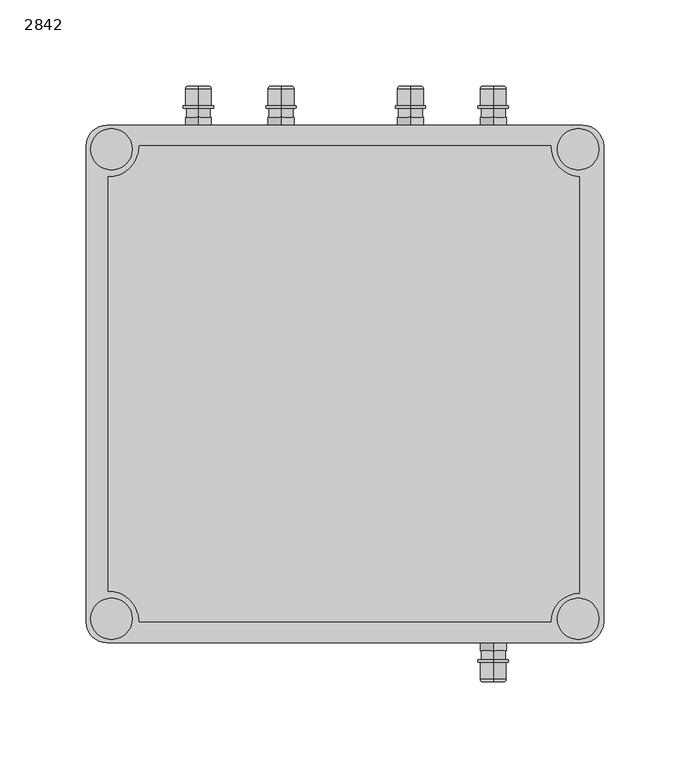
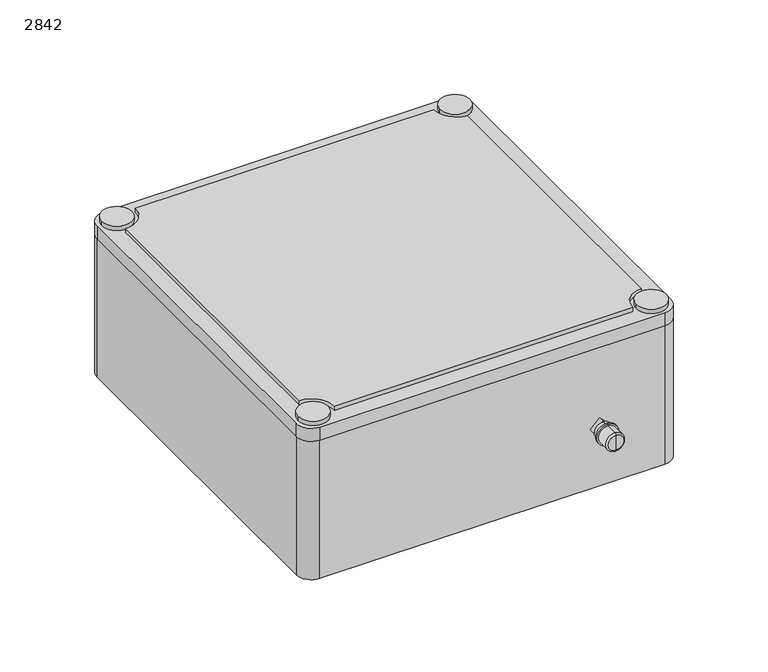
"""IFC4 building model written with IfcOpenShell, lengths in millimetres: alarm geometry, 2842_Intrinsically Safe Barrier Unit : 2842."""

from ifc_helpers import new_model, si_unit, point, frame, frame_2d, origin, origin_with_axes, place, context, project, spatial, polyline, circle_curve, ellipse_curve, trimmed, segment, composite_curve, outline, extrude, source, transform, mapped, element, save
from ifc_brep_helpers import plane_surface, cylinder_surface, revolved_surface, advanced_brep


def alarm_2842_b4f76887(model_context):
    return source(origin(), model_context, "Body", "SolidModel", [
        extrude(outline(polyline([(0.0, -10.6066017), (0.0, 0.0), (4.7, 0.0), (4.7, -10.6066017), (0.0, -10.6066017)])), frame((86.0, -150.0, 42.5), z_axis=(0.7071067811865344, 0.0, 0.7071067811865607), x_axis=(0.0, -1.0, 0.0)), (0.0, 0.0, 1.0), 10.6066017),
        advanced_brep(
        [(86.0, -154.7, 43.0436203), (86.0, -154.7, 56.9563797), (86.0, -154.7, 50.0), (86.0, -159.7, 50.0), (86.0, -159.7, 56.9563797), (86.0, -159.7, 43.0436203)],
        [
            (0, 1, circle_curve(frame((86.0, -154.7, 50.0), z_axis=(0.0, 1.0, 0.0), x_axis=(0.0, 0.0, 1.0)), 6.9563797)),
            (1, 2),
            (2, 0),
            (1, 0, circle_curve(frame((86.0, -154.7, 50.0), z_axis=(0.0, 1.0, 0.0), x_axis=(0.0, 0.0, 1.0)), 6.9563797)),
            (3, 4),
            (4, 5, circle_curve(frame((86.0, -159.7, 50.0), z_axis=(0.0, -1.0, 0.0), x_axis=(0.0, 0.0, 1.0)), 6.9563797)),
            (5, 3),
            (5, 4, circle_curve(frame((86.0, -159.7, 50.0), z_axis=(0.0, -1.0, 0.0), x_axis=(0.0, 0.0, 1.0)), 6.9563797)),
            (4, 1),
            (0, 5),
        ],
        [
            plane_surface(frame((86.0, -154.7, 50.0), z_axis=(0.0, 1.0, 0.0), x_axis=(0.0, 0.0, 1.0))),
            plane_surface(frame((86.0, -159.7, 50.0), z_axis=(0.0, -1.0, 0.0), x_axis=(0.0, 0.0, 1.0))),
            cylinder_surface(frame((86.0, 2554.9413433, 50.0), z_axis=(0.0, -1.0, 0.0), x_axis=(0.0, 0.0, 1.0)), 6.9563797),
        ],
        [
            (0, [[1, 2, 3]]),
            (0, [[4, -3, -2]]),
            (1, [[5, 6, 7]]),
            (1, [[-7, 8, -5]]),
            (2, [[-6, 9, -1, 10]]),
            (2, [[-8, -10, -4, -9]]),
        ],
    ),
        advanced_brep(
        [(86.0, -159.7, 41.2105626), (86.0, -159.7, 58.7894374), (86.0, -159.7, 50.0), (86.0, -172.5, 50.0), (86.0, -172.5, 56.1385432), (86.0, -172.5, 43.8614568), (86.0, -171.1521683, 57.4863749), (86.0, -171.1521683, 42.5136251), (86.0, -161.3299404, 57.4863749), (86.0, -161.3299404, 42.5136251), (86.0, -161.3299404, 58.7894374), (86.0, -161.3299404, 41.2105626)],
        [
            (0, 1, circle_curve(frame((86.0, -159.7, 50.0), z_axis=(0.0, 1.0, 0.0), x_axis=(0.0, 0.0, 1.0)), 8.7894374)),
            (1, 2),
            (2, 0),
            (1, 0, circle_curve(frame((86.0, -159.7, 50.0), z_axis=(0.0, 1.0, 0.0), x_axis=(0.0, 0.0, 1.0)), 8.7894374)),
            (3, 4),
            (4, 5, circle_curve(frame((86.0, -172.5, 50.0), z_axis=(0.0, -1.0, 0.0), x_axis=(0.0, 0.0, 1.0)), 6.1385432)),
            (5, 3),
            (5, 4, circle_curve(frame((86.0, -172.5, 50.0), z_axis=(0.0, -1.0, 0.0), x_axis=(0.0, 0.0, 1.0)), 6.1385432)),
            (4, 6, circle_curve(frame((86.0, -171.1521683, 56.1385432), z_axis=(-1.0, 0.0, 0.0), x_axis=(0.0, -1.0, 0.0)), 1.3478317)),
            (6, 7, circle_curve(frame((86.0, -171.1521683, 50.0), z_axis=(0.0, -1.0, 0.0), x_axis=(0.0, 0.0, 1.0)), 7.4863749)),
            (7, 5, circle_curve(frame((86.0, -171.1521683, 43.8614568), z_axis=(-1.0, 0.0, 0.0), x_axis=(0.0, -1.0, 0.0)), 1.3478317)),
            (7, 6, circle_curve(frame((86.0, -171.1521683, 50.0), z_axis=(0.0, -1.0, 0.0), x_axis=(0.0, 0.0, 1.0)), 7.4863749)),
            (6, 8),
            (8, 9, circle_curve(frame((86.0, -161.3299404, 50.0), z_axis=(0.0, -1.0, 0.0), x_axis=(0.0, 0.0, 1.0)), 7.4863749)),
            (9, 7),
            (9, 8, circle_curve(frame((86.0, -161.3299404, 50.0), z_axis=(0.0, -1.0, 0.0), x_axis=(0.0, 0.0, 1.0)), 7.4863749)),
            (8, 10),
            (10, 11, circle_curve(frame((86.0, -161.3299404, 50.0), z_axis=(0.0, -1.0, 0.0), x_axis=(0.0, 0.0, 1.0)), 8.7894374)),
            (11, 9),
            (11, 10, circle_curve(frame((86.0, -161.3299404, 50.0), z_axis=(0.0, -1.0, 0.0), x_axis=(0.0, 0.0, 1.0)), 8.7894374)),
            (10, 1),
            (0, 11),
        ],
        [
            plane_surface(frame((86.0, -159.7, 50.0), z_axis=(0.0, 1.0, 0.0), x_axis=(0.0, 0.0, 1.0))),
            plane_surface(frame((86.0, -172.5, 50.0), z_axis=(0.0, -1.0, 0.0), x_axis=(0.0, 0.0, 1.0))),
            revolved_surface(trimmed(ellipse_curve(frame((86.0, -171.1521683, 56.1385432), z_axis=(1.0, 0.0, 0.0), x_axis=(0.0, -1.0, 0.0)), 1.3478317, 1.3478317), [point((86.0, -171.1521683, 57.4863749))], [point((86.0, -172.5, 56.1385432))], True, "CARTESIAN"), (86.0, 2554.9413433, 50.0), (0.0, -1.0, 0.0)),
            cylinder_surface(frame((86.0, 2554.9413433, 50.0), z_axis=(0.0, -1.0, 0.0), x_axis=(0.0, 0.0, 1.0)), 7.4863749),
            plane_surface(frame((86.0, -161.3299404, 50.0), z_axis=(0.0, -1.0, 0.0), x_axis=(0.0, 0.0, 1.0))),
            cylinder_surface(frame((86.0, 2554.9413433, 50.0), z_axis=(0.0, -1.0, 0.0), x_axis=(0.0, 0.0, 1.0)), 8.7894374),
        ],
        [
            (0, [[1, 2, 3]]),
            (0, [[4, -3, -2]]),
            (1, [[5, 6, 7]]),
            (1, [[-7, 8, -5]]),
            (2, [[-6, 9, 10, 11]]),
            (2, [[-8, -11, 12, -9]]),
            (3, [[-10, 13, 14, 15]]),
            (3, [[-12, -15, 16, -13]]),
            (4, [[-14, 17, 18, 19]]),
            (4, [[-16, -19, 20, -17]]),
            (5, [[-18, 21, -1, 22]]),
            (5, [[-20, -22, -4, -21]]),
        ],
    ),
        extrude(outline(polyline([(0.0, -10.6066017), (0.0, 0.0), (4.7, 0.0), (4.7, -10.6066017), (0.0, -10.6066017)])), frame((78.5, 150.0, 50.0), z_axis=(0.7071067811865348, 0.0, 0.7071067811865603), x_axis=(0.0, 1.0, 0.0)), (0.0, 0.0, 1.0), 10.6066017),
        advanced_brep(
        [(86.0, 154.7, 50.0), (86.0, 154.7, 56.9563797), (86.0, 154.7, 43.0436203), (86.0, 159.7, 43.0436203), (86.0, 159.7, 56.9563797), (86.0, 159.7, 50.0)],
        [
            (0, 1),
            (1, 2, circle_curve(frame((86.0, 154.7, 50.0), z_axis=(0.0, -1.0, 0.0), x_axis=(0.0, 0.0, 1.0)), 6.9563797)),
            (2, 0),
            (2, 1, circle_curve(frame((86.0, 154.7, 50.0), z_axis=(0.0, -1.0, 0.0), x_axis=(0.0, 0.0, 1.0)), 6.9563797)),
            (3, 4, circle_curve(frame((86.0, 159.7, 50.0), z_axis=(0.0, 1.0, 0.0), x_axis=(0.0, 0.0, 1.0)), 6.9563797)),
            (4, 5),
            (5, 3),
            (4, 3, circle_curve(frame((86.0, 159.7, 50.0), z_axis=(0.0, 1.0, 0.0), x_axis=(0.0, 0.0, 1.0)), 6.9563797)),
            (1, 4),
            (3, 2),
        ],
        [
            plane_surface(frame((86.0, 154.7, 50.0), z_axis=(0.0, -1.0, 0.0), x_axis=(0.0, 0.0, 1.0))),
            plane_surface(frame((86.0, 159.7, 50.0), z_axis=(0.0, 1.0, 0.0), x_axis=(0.0, 0.0, 1.0))),
            cylinder_surface(frame((86.0, -2554.9413433, 50.0), z_axis=(0.0, -1.0, 0.0), x_axis=(0.0, 0.0, 1.0)), 6.9563797),
        ],
        [
            (0, [[1, 2, 3]]),
            (0, [[-3, 4, -1]]),
            (1, [[5, 6, 7]]),
            (1, [[8, -7, -6]]),
            (2, [[-2, 9, -5, 10]]),
            (2, [[-4, -10, -8, -9]]),
        ],
    ),
        advanced_brep(
        [(86.0, 159.7, 50.0), (86.0, 159.7, 58.7894374), (86.0, 159.7, 41.2105626), (86.0, 172.5, 43.8614568), (86.0, 172.5, 56.1385432), (86.0, 172.5, 50.0), (86.0, 171.1521683, 42.5136251), (86.0, 171.1521683, 57.4863749), (86.0, 161.3299404, 42.5136251), (86.0, 161.3299404, 57.4863749), (86.0, 161.3299404, 41.2105626), (86.0, 161.3299404, 58.7894374)],
        [
            (0, 1),
            (1, 2, circle_curve(frame((86.0, 159.7, 50.0), z_axis=(0.0, -1.0, 0.0), x_axis=(0.0, 0.0, 1.0)), 8.7894374)),
            (2, 0),
            (2, 1, circle_curve(frame((86.0, 159.7, 50.0), z_axis=(0.0, -1.0, 0.0), x_axis=(0.0, 0.0, 1.0)), 8.7894374)),
            (3, 4, circle_curve(frame((86.0, 172.5, 50.0), z_axis=(0.0, 1.0, 0.0), x_axis=(0.0, 0.0, 1.0)), 6.1385432)),
            (4, 5),
            (5, 3),
            (4, 3, circle_curve(frame((86.0, 172.5, 50.0), z_axis=(0.0, 1.0, 0.0), x_axis=(0.0, 0.0, 1.0)), 6.1385432)),
            (6, 7, circle_curve(frame((86.0, 171.1521683, 50.0), z_axis=(0.0, 1.0, 0.0), x_axis=(0.0, 0.0, 1.0)), 7.4863749)),
            (7, 4, circle_curve(frame((86.0, 171.1521683, 56.1385432), z_axis=(-1.0, 0.0, 0.0), x_axis=(0.0, 1.0, 0.0)), 1.3478317)),
            (3, 6, circle_curve(frame((86.0, 171.1521683, 43.8614568), z_axis=(-1.0, 0.0, 0.0), x_axis=(0.0, 1.0, 0.0)), 1.3478317)),
            (7, 6, circle_curve(frame((86.0, 171.1521683, 50.0), z_axis=(0.0, 1.0, 0.0), x_axis=(0.0, 0.0, 1.0)), 7.4863749)),
            (8, 9, circle_curve(frame((86.0, 161.3299404, 50.0), z_axis=(0.0, 1.0, 0.0), x_axis=(0.0, 0.0, 1.0)), 7.4863749)),
            (9, 7),
            (6, 8),
            (9, 8, circle_curve(frame((86.0, 161.3299404, 50.0), z_axis=(0.0, 1.0, 0.0), x_axis=(0.0, 0.0, 1.0)), 7.4863749)),
            (10, 11, circle_curve(frame((86.0, 161.3299404, 50.0), z_axis=(0.0, 1.0, 0.0), x_axis=(0.0, 0.0, 1.0)), 8.7894374)),
            (11, 9),
            (8, 10),
            (11, 10, circle_curve(frame((86.0, 161.3299404, 50.0), z_axis=(0.0, 1.0, 0.0), x_axis=(0.0, 0.0, 1.0)), 8.7894374)),
            (1, 11),
            (10, 2),
        ],
        [
            plane_surface(frame((86.0, 159.7, 50.0), z_axis=(0.0, -1.0, 0.0), x_axis=(0.0, 0.0, 1.0))),
            plane_surface(frame((86.0, 172.5, 50.0), z_axis=(0.0, 1.0, 0.0), x_axis=(0.0, 0.0, 1.0))),
            revolved_surface(trimmed(ellipse_curve(frame((86.0, 171.1521683, 56.1385432), z_axis=(1.0, 0.0, 0.0), x_axis=(0.0, 1.0, 0.0)), 1.3478317, 1.3478317), [point((86.0, 172.5, 56.1385432))], [point((86.0, 171.1521683, 57.4863749))], True, "CARTESIAN"), (86.0, -2554.9413433, 50.0), (0.0, -1.0, 0.0)),
            cylinder_surface(frame((86.0, -2554.9413433, 50.0), z_axis=(0.0, -1.0, 0.0), x_axis=(0.0, 0.0, 1.0)), 7.4863749),
            plane_surface(frame((86.0, 161.3299404, 50.0), z_axis=(0.0, 1.0, 0.0), x_axis=(0.0, 0.0, 1.0))),
            cylinder_surface(frame((86.0, -2554.9413433, 50.0), z_axis=(0.0, -1.0, 0.0), x_axis=(0.0, 0.0, 1.0)), 8.7894374),
        ],
        [
            (0, [[1, 2, 3]]),
            (0, [[-3, 4, -1]]),
            (1, [[5, 6, 7]]),
            (1, [[8, -7, -6]]),
            (2, [[9, 10, -5, 11]]),
            (2, [[12, -11, -8, -10]]),
            (3, [[13, 14, -9, 15]]),
            (3, [[16, -15, -12, -14]]),
            (4, [[17, 18, -13, 19]]),
            (4, [[20, -19, -16, -18]]),
            (5, [[-2, 21, -17, 22]]),
            (5, [[-4, -22, -20, -21]]),
        ],
    ),
        extrude(outline(polyline([(0.0, -10.6066017), (0.0, 0.0), (4.7, 0.0), (4.7, -10.6066017), (0.0, -10.6066017)])), frame((30.5, 150.0, 50.0), z_axis=(0.7071067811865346, 0.0, 0.7071067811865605), x_axis=(0.0, 1.0, 0.0)), (0.0, 0.0, 1.0), 10.6066017),
        advanced_brep(
        [(38.0, 154.7, 50.0), (38.0, 154.7, 56.9563797), (38.0, 154.7, 43.0436203), (38.0, 159.7, 43.0436203), (38.0, 159.7, 56.9563797), (38.0, 159.7, 50.0)],
        [
            (0, 1),
            (1, 2, circle_curve(frame((38.0, 154.7, 50.0), z_axis=(0.0, -1.0, 0.0), x_axis=(0.0, 0.0, 1.0)), 6.9563797)),
            (2, 0),
            (2, 1, circle_curve(frame((38.0, 154.7, 50.0), z_axis=(0.0, -1.0, 0.0), x_axis=(0.0, 0.0, 1.0)), 6.9563797)),
            (3, 4, circle_curve(frame((38.0, 159.7, 50.0), z_axis=(0.0, 1.0, 0.0), x_axis=(0.0, 0.0, 1.0)), 6.9563797)),
            (4, 5),
            (5, 3),
            (4, 3, circle_curve(frame((38.0, 159.7, 50.0), z_axis=(0.0, 1.0, 0.0), x_axis=(0.0, 0.0, 1.0)), 6.9563797)),
            (1, 4),
            (3, 2),
        ],
        [
            plane_surface(frame((38.0, 154.7, 50.0), z_axis=(0.0, -1.0, 0.0), x_axis=(0.0, 0.0, 1.0))),
            plane_surface(frame((38.0, 159.7, 50.0), z_axis=(0.0, 1.0, 0.0), x_axis=(0.0, 0.0, 1.0))),
            cylinder_surface(frame((38.0, -2554.9413433, 50.0), z_axis=(0.0, -1.0, 0.0), x_axis=(0.0, 0.0, 1.0)), 6.9563797),
        ],
        [
            (0, [[1, 2, 3]]),
            (0, [[-3, 4, -1]]),
            (1, [[5, 6, 7]]),
            (1, [[8, -7, -6]]),
            (2, [[-2, 9, -5, 10]]),
            (2, [[-4, -10, -8, -9]]),
        ],
    ),
        advanced_brep(
        [(38.0, 159.7, 50.0), (38.0, 159.7, 58.7894374), (38.0, 159.7, 41.2105626), (38.0, 172.5, 43.8614568), (38.0, 172.5, 56.1385432), (38.0, 172.5, 50.0), (38.0, 171.1521683, 42.5136251), (38.0, 171.1521683, 57.4863749), (38.0, 161.3299404, 42.5136251), (38.0, 161.3299404, 57.4863749), (38.0, 161.3299404, 41.2105626), (38.0, 161.3299404, 58.7894374)],
        [
            (0, 1),
            (1, 2, circle_curve(frame((38.0, 159.7, 50.0), z_axis=(0.0, -1.0, 0.0), x_axis=(0.0, 0.0, 1.0)), 8.7894374)),
            (2, 0),
            (2, 1, circle_curve(frame((38.0, 159.7, 50.0), z_axis=(0.0, -1.0, 0.0), x_axis=(0.0, 0.0, 1.0)), 8.7894374)),
            (3, 4, circle_curve(frame((38.0, 172.5, 50.0), z_axis=(0.0, 1.0, 0.0), x_axis=(0.0, 0.0, 1.0)), 6.1385432)),
            (4, 5),
            (5, 3),
            (4, 3, circle_curve(frame((38.0, 172.5, 50.0), z_axis=(0.0, 1.0, 0.0), x_axis=(0.0, 0.0, 1.0)), 6.1385432)),
            (6, 7, circle_curve(frame((38.0, 171.1521683, 50.0), z_axis=(0.0, 1.0, 0.0), x_axis=(0.0, 0.0, 1.0)), 7.4863749)),
            (7, 4, circle_curve(frame((38.0, 171.1521683, 56.1385432), z_axis=(-1.0, 0.0, 0.0), x_axis=(0.0, 1.0, 0.0)), 1.3478317)),
            (3, 6, circle_curve(frame((38.0, 171.1521683, 43.8614568), z_axis=(-1.0, 0.0, 0.0), x_axis=(0.0, 1.0, 0.0)), 1.3478317)),
            (7, 6, circle_curve(frame((38.0, 171.1521683, 50.0), z_axis=(0.0, 1.0, 0.0), x_axis=(0.0, 0.0, 1.0)), 7.4863749)),
            (8, 9, circle_curve(frame((38.0, 161.3299404, 50.0), z_axis=(0.0, 1.0, 0.0), x_axis=(0.0, 0.0, 1.0)), 7.4863749)),
            (9, 7),
            (6, 8),
            (9, 8, circle_curve(frame((38.0, 161.3299404, 50.0), z_axis=(0.0, 1.0, 0.0), x_axis=(0.0, 0.0, 1.0)), 7.4863749)),
            (10, 11, circle_curve(frame((38.0, 161.3299404, 50.0), z_axis=(0.0, 1.0, 0.0), x_axis=(0.0, 0.0, 1.0)), 8.7894374)),
            (11, 9),
            (8, 10),
            (11, 10, circle_curve(frame((38.0, 161.3299404, 50.0), z_axis=(0.0, 1.0, 0.0), x_axis=(0.0, 0.0, 1.0)), 8.7894374)),
            (1, 11),
            (10, 2),
        ],
        [
            plane_surface(frame((38.0, 159.7, 50.0), z_axis=(0.0, -1.0, 0.0), x_axis=(0.0, 0.0, 1.0))),
            plane_surface(frame((38.0, 172.5, 50.0), z_axis=(0.0, 1.0, 0.0), x_axis=(0.0, 0.0, 1.0))),
            revolved_surface(trimmed(ellipse_curve(frame((38.0, 171.1521683, 56.1385432), z_axis=(1.0, 0.0, 0.0), x_axis=(0.0, 1.0, 0.0)), 1.3478317, 1.3478317), [point((38.0, 172.5, 56.1385432))], [point((38.0, 171.1521683, 57.4863749))], True, "CARTESIAN"), (38.0, -2554.9413433, 50.0), (0.0, -1.0, 0.0)),
            cylinder_surface(frame((38.0, -2554.9413433, 50.0), z_axis=(0.0, -1.0, 0.0), x_axis=(0.0, 0.0, 1.0)), 7.4863749),
            plane_surface(frame((38.0, 161.3299404, 50.0), z_axis=(0.0, 1.0, 0.0), x_axis=(0.0, 0.0, 1.0))),
            cylinder_surface(frame((38.0, -2554.9413433, 50.0), z_axis=(0.0, -1.0, 0.0), x_axis=(0.0, 0.0, 1.0)), 8.7894374),
        ],
        [
            (0, [[1, 2, 3]]),
            (0, [[-3, 4, -1]]),
            (1, [[5, 6, 7]]),
            (1, [[8, -7, -6]]),
            (2, [[9, 10, -5, 11]]),
            (2, [[12, -11, -8, -10]]),
            (3, [[13, 14, -9, 15]]),
            (3, [[16, -15, -12, -14]]),
            (4, [[17, 18, -13, 19]]),
            (4, [[20, -19, -16, -18]]),
            (5, [[-2, 21, -17, 22]]),
            (5, [[-4, -22, -20, -21]]),
        ],
    ),
        extrude(outline(polyline([(0.0, -10.6066017), (0.0, 0.0), (4.7, 0.0), (4.7, -10.6066017), (0.0, -10.6066017)])), frame((-44.5, 150.0, 50.0), z_axis=(0.7071067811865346, 0.0, 0.7071067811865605), x_axis=(0.0, 1.0, 0.0)), (0.0, 0.0, 1.0), 10.6066017),
        advanced_brep(
        [(-37.0, 154.7, 50.0), (-37.0, 154.7, 56.9563797), (-37.0, 154.7, 43.0436203), (-37.0, 159.7, 43.0436203), (-37.0, 159.7, 56.9563797), (-37.0, 159.7, 50.0)],
        [
            (0, 1),
            (1, 2, circle_curve(frame((-37.0, 154.7, 50.0), z_axis=(0.0, -1.0, 0.0), x_axis=(0.0, 0.0, 1.0)), 6.9563797)),
            (2, 0),
            (2, 1, circle_curve(frame((-37.0, 154.7, 50.0), z_axis=(0.0, -1.0, 0.0), x_axis=(0.0, 0.0, 1.0)), 6.9563797)),
            (3, 4, circle_curve(frame((-37.0, 159.7, 50.0), z_axis=(0.0, 1.0, 0.0), x_axis=(0.0, 0.0, 1.0)), 6.9563797)),
            (4, 5),
            (5, 3),
            (4, 3, circle_curve(frame((-37.0, 159.7, 50.0), z_axis=(0.0, 1.0, 0.0), x_axis=(0.0, 0.0, 1.0)), 6.9563797)),
            (1, 4),
            (3, 2),
        ],
        [
            plane_surface(frame((-37.0, 154.7, 50.0), z_axis=(0.0, -1.0, 0.0), x_axis=(0.0, 0.0, 1.0))),
            plane_surface(frame((-37.0, 159.7, 50.0), z_axis=(0.0, 1.0, 0.0), x_axis=(0.0, 0.0, 1.0))),
            cylinder_surface(frame((-37.0, -2554.9413433, 50.0), z_axis=(0.0, -1.0, 0.0), x_axis=(0.0, 0.0, 1.0)), 6.9563797),
        ],
        [
            (0, [[1, 2, 3]]),
            (0, [[-3, 4, -1]]),
            (1, [[5, 6, 7]]),
            (1, [[8, -7, -6]]),
            (2, [[-2, 9, -5, 10]]),
            (2, [[-4, -10, -8, -9]]),
        ],
    ),
        advanced_brep(
        [(-37.0, 159.7, 50.0), (-37.0, 159.7, 58.7894374), (-37.0, 159.7, 41.2105626), (-37.0, 172.5, 43.8614568), (-37.0, 172.5, 56.1385432), (-37.0, 172.5, 50.0), (-37.0, 171.1521683, 42.5136251), (-37.0, 171.1521683, 57.4863749), (-37.0, 161.3299404, 42.5136251), (-37.0, 161.3299404, 57.4863749), (-37.0, 161.3299404, 41.2105626), (-37.0, 161.3299404, 58.7894374)],
        [
            (0, 1),
            (1, 2, circle_curve(frame((-37.0, 159.7, 50.0), z_axis=(0.0, -1.0, 0.0), x_axis=(0.0, 0.0, 1.0)), 8.7894374)),
            (2, 0),
            (2, 1, circle_curve(frame((-37.0, 159.7, 50.0), z_axis=(0.0, -1.0, 0.0), x_axis=(0.0, 0.0, 1.0)), 8.7894374)),
            (3, 4, circle_curve(frame((-37.0, 172.5, 50.0), z_axis=(0.0, 1.0, 0.0), x_axis=(0.0, 0.0, 1.0)), 6.1385432)),
            (4, 5),
            (5, 3),
            (4, 3, circle_curve(frame((-37.0, 172.5, 50.0), z_axis=(0.0, 1.0, 0.0), x_axis=(0.0, 0.0, 1.0)), 6.1385432)),
            (6, 7, circle_curve(frame((-37.0, 171.1521683, 50.0), z_axis=(0.0, 1.0, 0.0), x_axis=(0.0, 0.0, 1.0)), 7.4863749)),
            (7, 4, circle_curve(frame((-37.0, 171.1521683, 56.1385432), z_axis=(-1.0, 0.0, 0.0), x_axis=(0.0, 1.0, 0.0)), 1.3478317)),
            (3, 6, circle_curve(frame((-37.0, 171.1521683, 43.8614568), z_axis=(-1.0, 0.0, 0.0), x_axis=(0.0, 1.0, 0.0)), 1.3478317)),
            (7, 6, circle_curve(frame((-37.0, 171.1521683, 50.0), z_axis=(0.0, 1.0, 0.0), x_axis=(0.0, 0.0, 1.0)), 7.4863749)),
            (8, 9, circle_curve(frame((-37.0, 161.3299404, 50.0), z_axis=(0.0, 1.0, 0.0), x_axis=(0.0, 0.0, 1.0)), 7.4863749)),
            (9, 7),
            (6, 8),
            (9, 8, circle_curve(frame((-37.0, 161.3299404, 50.0), z_axis=(0.0, 1.0, 0.0), x_axis=(0.0, 0.0, 1.0)), 7.4863749)),
            (10, 11, circle_curve(frame((-37.0, 161.3299404, 50.0), z_axis=(0.0, 1.0, 0.0), x_axis=(0.0, 0.0, 1.0)), 8.7894374)),
            (11, 9),
            (8, 10),
            (11, 10, circle_curve(frame((-37.0, 161.3299404, 50.0), z_axis=(0.0, 1.0, 0.0), x_axis=(0.0, 0.0, 1.0)), 8.7894374)),
            (1, 11),
            (10, 2),
        ],
        [
            plane_surface(frame((-37.0, 159.7, 50.0), z_axis=(0.0, -1.0, 0.0), x_axis=(0.0, 0.0, 1.0))),
            plane_surface(frame((-37.0, 172.5, 50.0), z_axis=(0.0, 1.0, 0.0), x_axis=(0.0, 0.0, 1.0))),
            revolved_surface(trimmed(ellipse_curve(frame((-37.0, 171.1521683, 56.1385432), z_axis=(1.0, 0.0, 0.0), x_axis=(0.0, 1.0, 0.0)), 1.3478317, 1.3478317), [point((-37.0, 172.5, 56.1385432))], [point((-37.0, 171.1521683, 57.4863749))], True, "CARTESIAN"), (-37.0, -2554.9413433, 50.0), (0.0, -1.0, 0.0)),
            cylinder_surface(frame((-37.0, -2554.9413433, 50.0), z_axis=(0.0, -1.0, 0.0), x_axis=(0.0, 0.0, 1.0)), 7.4863749),
            plane_surface(frame((-37.0, 161.3299404, 50.0), z_axis=(0.0, 1.0, 0.0), x_axis=(0.0, 0.0, 1.0))),
            cylinder_surface(frame((-37.0, -2554.9413433, 50.0), z_axis=(0.0, -1.0, 0.0), x_axis=(0.0, 0.0, 1.0)), 8.7894374),
        ],
        [
            (0, [[1, 2, 3]]),
            (0, [[-3, 4, -1]]),
            (1, [[5, 6, 7]]),
            (1, [[8, -7, -6]]),
            (2, [[9, 10, -5, 11]]),
            (2, [[12, -11, -8, -10]]),
            (3, [[13, 14, -9, 15]]),
            (3, [[16, -15, -12, -14]]),
            (4, [[17, 18, -13, 19]]),
            (4, [[20, -19, -16, -18]]),
            (5, [[-2, 21, -17, 22]]),
            (5, [[-4, -22, -20, -21]]),
        ],
    ),
        extrude(outline(polyline([(0.0, -10.6066017), (0.0, 0.0), (4.7, 0.0), (4.7, -10.6066017), (0.0, -10.6066017)])), frame((-92.5, 150.0, 50.0), z_axis=(0.7071067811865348, 0.0, 0.7071067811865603), x_axis=(0.0, 1.0, 0.0)), (0.0, 0.0, 1.0), 10.6066017),
        advanced_brep(
        [(-85.0, 154.7, 50.0), (-85.0, 154.7, 56.9563797), (-85.0, 154.7, 43.0436203), (-85.0, 159.7, 43.0436203), (-85.0, 159.7, 56.9563797), (-85.0, 159.7, 50.0)],
        [
            (0, 1),
            (1, 2, circle_curve(frame((-85.0, 154.7, 50.0), z_axis=(0.0, -1.0, 0.0), x_axis=(0.0, 0.0, 1.0)), 6.9563797)),
            (2, 0),
            (2, 1, circle_curve(frame((-85.0, 154.7, 50.0), z_axis=(0.0, -1.0, 0.0), x_axis=(0.0, 0.0, 1.0)), 6.9563797)),
            (3, 4, circle_curve(frame((-85.0, 159.7, 50.0), z_axis=(0.0, 1.0, 0.0), x_axis=(0.0, 0.0, 1.0)), 6.9563797)),
            (4, 5),
            (5, 3),
            (4, 3, circle_curve(frame((-85.0, 159.7, 50.0), z_axis=(0.0, 1.0, 0.0), x_axis=(0.0, 0.0, 1.0)), 6.9563797)),
            (1, 4),
            (3, 2),
        ],
        [
            plane_surface(frame((-85.0, 154.7, 50.0), z_axis=(0.0, -1.0, 0.0), x_axis=(0.0, 0.0, 1.0))),
            plane_surface(frame((-85.0, 159.7, 50.0), z_axis=(0.0, 1.0, 0.0), x_axis=(0.0, 0.0, 1.0))),
            cylinder_surface(frame((-85.0, -2554.9413433, 50.0), z_axis=(0.0, -1.0, 0.0), x_axis=(0.0, 0.0, 1.0)), 6.9563797),
        ],
        [
            (0, [[1, 2, 3]]),
            (0, [[-3, 4, -1]]),
            (1, [[5, 6, 7]]),
            (1, [[8, -7, -6]]),
            (2, [[-2, 9, -5, 10]]),
            (2, [[-4, -10, -8, -9]]),
        ],
    ),
        advanced_brep(
        [(-85.0, 159.7, 50.0), (-85.0, 159.7, 58.7894374), (-85.0, 159.7, 41.2105626), (-85.0, 172.5, 43.8614568), (-85.0, 172.5, 56.1385432), (-85.0, 172.5, 50.0), (-85.0, 171.1521683, 42.5136251), (-85.0, 171.1521683, 57.4863749), (-85.0, 161.3299404, 42.5136251), (-85.0, 161.3299404, 57.4863749), (-85.0, 161.3299404, 41.2105626), (-85.0, 161.3299404, 58.7894374)],
        [
            (0, 1),
            (1, 2, circle_curve(frame((-85.0, 159.7, 50.0), z_axis=(0.0, -1.0, 0.0), x_axis=(0.0, 0.0, 1.0)), 8.7894374)),
            (2, 0),
            (2, 1, circle_curve(frame((-85.0, 159.7, 50.0), z_axis=(0.0, -1.0, 0.0), x_axis=(0.0, 0.0, 1.0)), 8.7894374)),
            (3, 4, circle_curve(frame((-85.0, 172.5, 50.0), z_axis=(0.0, 1.0, 0.0), x_axis=(0.0, 0.0, 1.0)), 6.1385432)),
            (4, 5),
            (5, 3),
            (4, 3, circle_curve(frame((-85.0, 172.5, 50.0), z_axis=(0.0, 1.0, 0.0), x_axis=(0.0, 0.0, 1.0)), 6.1385432)),
            (6, 7, circle_curve(frame((-85.0, 171.1521683, 50.0), z_axis=(0.0, 1.0, 0.0), x_axis=(0.0, 0.0, 1.0)), 7.4863749)),
            (7, 4, circle_curve(frame((-85.0, 171.1521683, 56.1385432), z_axis=(-1.0, 0.0, 0.0), x_axis=(0.0, 1.0, 0.0)), 1.3478317)),
            (3, 6, circle_curve(frame((-85.0, 171.1521683, 43.8614568), z_axis=(-1.0, 0.0, 0.0), x_axis=(0.0, 1.0, 0.0)), 1.3478317)),
            (7, 6, circle_curve(frame((-85.0, 171.1521683, 50.0), z_axis=(0.0, 1.0, 0.0), x_axis=(0.0, 0.0, 1.0)), 7.4863749)),
            (8, 9, circle_curve(frame((-85.0, 161.3299404, 50.0), z_axis=(0.0, 1.0, 0.0), x_axis=(0.0, 0.0, 1.0)), 7.4863749)),
            (9, 7),
            (6, 8),
            (9, 8, circle_curve(frame((-85.0, 161.3299404, 50.0), z_axis=(0.0, 1.0, 0.0), x_axis=(0.0, 0.0, 1.0)), 7.4863749)),
            (10, 11, circle_curve(frame((-85.0, 161.3299404, 50.0), z_axis=(0.0, 1.0, 0.0), x_axis=(0.0, 0.0, 1.0)), 8.7894374)),
            (11, 9),
            (8, 10),
            (11, 10, circle_curve(frame((-85.0, 161.3299404, 50.0), z_axis=(0.0, 1.0, 0.0), x_axis=(0.0, 0.0, 1.0)), 8.7894374)),
            (1, 11),
            (10, 2),
        ],
        [
            plane_surface(frame((-85.0, 159.7, 50.0), z_axis=(0.0, -1.0, 0.0), x_axis=(0.0, 0.0, 1.0))),
            plane_surface(frame((-85.0, 172.5, 50.0), z_axis=(0.0, 1.0, 0.0), x_axis=(0.0, 0.0, 1.0))),
            revolved_surface(trimmed(ellipse_curve(frame((-85.0, 171.1521683, 56.1385432), z_axis=(1.0, 0.0, 0.0), x_axis=(0.0, 1.0, 0.0)), 1.3478317, 1.3478317), [point((-85.0, 172.5, 56.1385432))], [point((-85.0, 171.1521683, 57.4863749))], True, "CARTESIAN"), (-85.0, -2554.9413433, 50.0), (0.0, -1.0, 0.0)),
            cylinder_surface(frame((-85.0, -2554.9413433, 50.0), z_axis=(0.0, -1.0, 0.0), x_axis=(0.0, 0.0, 1.0)), 7.4863749),
            plane_surface(frame((-85.0, 161.3299404, 50.0), z_axis=(0.0, 1.0, 0.0), x_axis=(0.0, 0.0, 1.0))),
            cylinder_surface(frame((-85.0, -2554.9413433, 50.0), z_axis=(0.0, -1.0, 0.0), x_axis=(0.0, 0.0, 1.0)), 8.7894374),
        ],
        [
            (0, [[1, 2, 3]]),
            (0, [[-3, 4, -1]]),
            (1, [[5, 6, 7]]),
            (1, [[8, -7, -6]]),
            (2, [[9, 10, -5, 11]]),
            (2, [[12, -11, -8, -10]]),
            (3, [[13, 14, -9, 15]]),
            (3, [[16, -15, -12, -14]]),
            (4, [[17, 18, -13, 19]]),
            (4, [[20, -19, -16, -18]]),
            (5, [[-2, 21, -17, 22]]),
            (5, [[-4, -22, -20, -21]]),
        ],
    ),
        extrude(outline(composite_curve([segment(polyline([(-150.0, -137.9), (-150.0, 137.9)]), True, "CONTINUOUS"), segment(trimmed(circle_curve(frame_2d((-137.9, 137.9)), 12.1), [point((-150.0, 137.9))], [point((-137.9, 150.0))], False, "CARTESIAN"), True, "CONTINUOUS"), segment(polyline([(-137.9, 150.0), (137.9, 150.0)]), True, "CONTINUOUS"), segment(trimmed(circle_curve(frame_2d((137.9, 137.9)), 12.1), [point((137.9, 150.0))], [point((150.0, 137.9))], False, "CARTESIAN"), True, "CONTINUOUS"), segment(polyline([(150.0, 137.9), (150.0, -137.9)]), True, "CONTINUOUS"), segment(trimmed(circle_curve(frame_2d((137.9, -137.9)), 12.1), [point((150.0, -137.9))], [point((137.9, -150.0))], False, "CARTESIAN"), True, "CONTINUOUS"), segment(polyline([(137.9, -150.0), (-137.9, -150.0)]), True, "CONTINUOUS"), segment(trimmed(circle_curve(frame_2d((-137.9, -137.9)), 12.1), [point((-137.9, -150.0))], [point((-150.0, -137.9))], False, "CARTESIAN"), True, "CONTINUOUS")], self_intersect=False)), frame((0.0, 0.0, 117.0), z_axis=(0.0, 0.0, 1.0), x_axis=(1.0, 0.0, 0.0)), (0.0, 0.0, 1.0), 11.0),
        extrude(outline(composite_curve([segment(trimmed(circle_curve(frame_2d((-135.3321179, 136.0181156)), 12.0), [point((-147.3321179, 136.0181156))], [point((-123.3321179, 136.0181156))], False, "CARTESIAN"), True, "CONTINUOUS"), segment(trimmed(circle_curve(frame_2d((-135.3321179, 136.0181156)), 12.0), [point((-123.3321179, 136.0181156))], [point((-147.3321179, 136.0181156))], False, "CARTESIAN"), True, "CONTINUOUS")], self_intersect=False)), frame((0.0, 0.0, 128.0), z_axis=(0.0, 0.0, 1.0), x_axis=(1.0, 0.0, 0.0)), (0.0, 0.0, 1.0), 4.0),
        extrude(outline(composite_curve([segment(trimmed(circle_curve(frame_2d((135.3321179, 136.0181156)), 12.0), [point((123.3321179, 136.0181156))], [point((147.3321179, 136.0181156))], False, "CARTESIAN"), True, "CONTINUOUS"), segment(trimmed(circle_curve(frame_2d((135.3321179, 136.0181156)), 12.0), [point((147.3321179, 136.0181156))], [point((123.3321179, 136.0181156))], False, "CARTESIAN"), True, "CONTINUOUS")], self_intersect=False)), frame((0.0, 0.0, 128.0), z_axis=(0.0, 0.0, 1.0), x_axis=(1.0, 0.0, 0.0)), (0.0, 0.0, 1.0), 4.0),
        extrude(outline(composite_curve([segment(trimmed(circle_curve(frame_2d((-135.3321179, -136.0181156)), 12.0), [point((-147.3321179, -136.0181156))], [point((-123.3321179, -136.0181156))], False, "CARTESIAN"), True, "CONTINUOUS"), segment(trimmed(circle_curve(frame_2d((-135.3321179, -136.0181156)), 12.0), [point((-123.3321179, -136.0181156))], [point((-147.3321179, -136.0181156))], False, "CARTESIAN"), True, "CONTINUOUS")], self_intersect=False)), frame((0.0, 0.0, 128.0), z_axis=(0.0, 0.0, 1.0), x_axis=(1.0, 0.0, 0.0)), (0.0, 0.0, 1.0), 4.0),
        extrude(outline(composite_curve([segment(trimmed(circle_curve(frame_2d((135.3321179, -136.0181156)), 12.0), [point((123.3321179, -136.0181156))], [point((147.3321179, -136.0181156))], False, "CARTESIAN"), True, "CONTINUOUS"), segment(trimmed(circle_curve(frame_2d((135.3321179, -136.0181156)), 12.0), [point((147.3321179, -136.0181156))], [point((123.3321179, -136.0181156))], False, "CARTESIAN"), True, "CONTINUOUS")], self_intersect=False)), frame((0.0, 0.0, 128.0), z_axis=(0.0, 0.0, 1.0), x_axis=(1.0, 0.0, 0.0)), (0.0, 0.0, 1.0), 4.0),
        extrude(outline(composite_curve([segment(polyline([(-137.218542, -120.0), (-137.218542, 120.0)]), True, "CONTINUOUS"), segment(trimmed(circle_curve(frame_2d((-137.218542, 137.9045397)), 17.9045397), [point((-137.218542, 120.0))], [point((-119.3140023, 137.9045397))], True, "CARTESIAN"), True, "CONTINUOUS"), segment(polyline([(-119.3140023, 137.9045397), (119.3140023, 137.9045397)]), True, "CONTINUOUS"), segment(trimmed(circle_curve(frame_2d((137.2139121, 137.8476977)), 17.9), [point((119.3140023, 137.9045397))], [point((135.8465466, 120.0))], True, "CARTESIAN"), True, "CONTINUOUS"), segment(polyline([(135.8465466, 120.0), (135.8465466, -121.3719954)]), True, "CONTINUOUS"), segment(trimmed(circle_curve(frame_2d((135.8465466, -137.9045397)), 16.5325443), [point((135.8465466, -121.3719954))], [point((119.3140023, -137.9045397))], True, "CARTESIAN"), True, "CONTINUOUS"), segment(polyline([(119.3140023, -137.9045397), (-119.3140023, -137.9045397)]), True, "CONTINUOUS"), segment(trimmed(circle_curve(frame_2d((-137.218542, -137.9045397)), 17.9045397), [point((-119.3140023, -137.9045397))], [point((-137.218542, -120.0))], True, "CARTESIAN"), True, "CONTINUOUS")], self_intersect=False)), frame((0.0, 0.0, 128.0), z_axis=(0.0, 0.0, 1.0), x_axis=(1.0, 0.0, 0.0)), (0.0, 0.0, 1.0), 4.0),
        extrude(outline(composite_curve([segment(trimmed(circle_curve(frame_2d((137.9, 137.9)), 12.1), [point((137.9, 150.0))], [point((150.0, 137.9))], False, "CARTESIAN"), True, "CONTINUOUS"), segment(polyline([(150.0, 137.9), (150.0, -137.9)]), True, "CONTINUOUS"), segment(trimmed(circle_curve(frame_2d((137.9, -137.9)), 12.1), [point((150.0, -137.9))], [point((137.9, -150.0))], False, "CARTESIAN"), True, "CONTINUOUS"), segment(polyline([(137.9, -150.0), (-137.9, -150.0)]), True, "CONTINUOUS"), segment(trimmed(circle_curve(frame_2d((-137.9, -137.9)), 12.1), [point((-137.9, -150.0))], [point((-150.0, -137.9))], False, "CARTESIAN"), True, "CONTINUOUS"), segment(polyline([(-150.0, -137.9), (-150.0, 137.9)]), True, "CONTINUOUS"), segment(trimmed(circle_curve(frame_2d((-137.9, 137.9)), 12.1), [point((-150.0, 137.9))], [point((-137.9, 150.0))], False, "CARTESIAN"), True, "CONTINUOUS"), segment(polyline([(-137.9, 150.0), (137.9, 150.0)]), True, "CONTINUOUS")], self_intersect=False)), origin_with_axes(), (0.0, 0.0, 1.0), 117.0),
    ])


if __name__ == "__main__":
    model = new_model("IFC4")
    model_context = context("Model", 3, world=origin())
    ifc_project = project(units=[si_unit("LENGTHUNIT", "METRE", prefix="MILLI")], contexts=[model_context])
    site = spatial("IfcSite", under=ifc_project)
    building = spatial("IfcBuilding", under=site)
    placement = place(None, origin())
    alarm_2842_shape = alarm_2842_b4f76887(model_context)
    element("IfcAlarm", 1, ObjectType="2842_Intrinsically Safe Barrier Unit : 2842", at=placement, inside=building, context=model_context, shape_type="MappedRepresentation", body=[
        mapped(alarm_2842_shape, transform((0.0, 0.0, 0.0), x_axis=(1.0, 0.0, 0.0), y_axis=(0.0, 1.0, 0.0), z_axis=(0.0, 0.0, 1.0))),
    ])
    save(model, "model.ifc")
